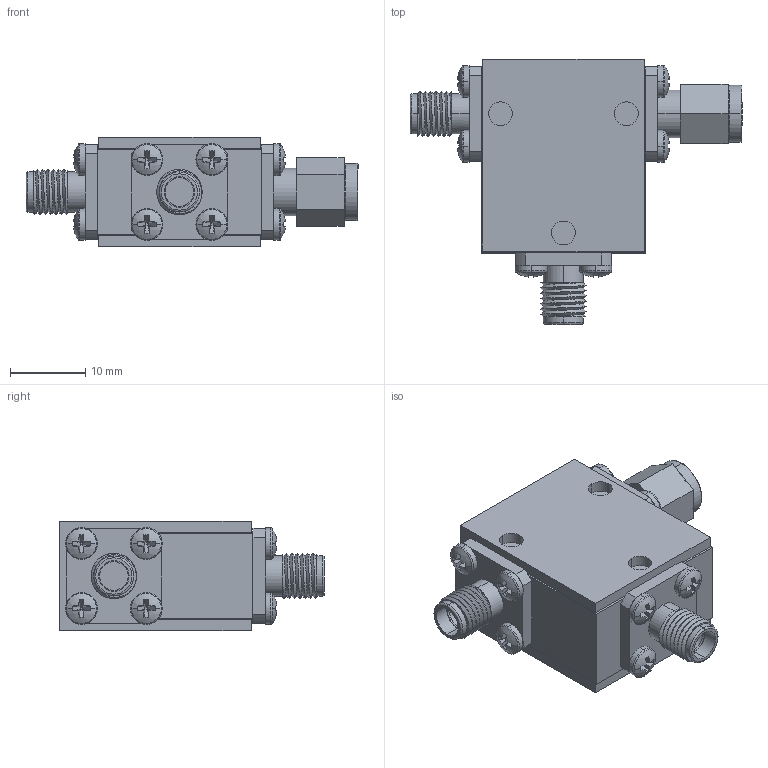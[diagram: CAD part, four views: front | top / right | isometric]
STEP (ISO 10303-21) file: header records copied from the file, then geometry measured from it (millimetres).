
FILE_DESCRIPTION (( 'STEP AP214' ), '1' );
FILE_NAME ('Package 4-2 Circ FMF - Cryo Shielded.STEP', '2023-12-20T00:15:17', ( '' ), ( '' ), 'SwSTEP 2.0', 'SolidWorks 2016', '' );
FILE_SCHEMA (( 'AUTOMOTIVE_DESIGN' ));
Length unit declared in the file: inch
Products named in the file (6): Delta SMA-Male; WR054; pan cross head_ai_CR-PHMS 0.086-56x0.125x0.125-N; Delta SMA-Female 0.500 flange Threaded; Package Size 4; Package 4-2 Circ FMF - Cryo Shielded
Assembly tree (17 placements, depth 2):
  Package 4-2 Circ FMF - Cryo Shielded
    Package Size 4
    Delta SMA-Female 0.500 flange Threaded  x2
    pan cross head_ai_CR-PHMS 0.086-56x0.125x0.125-N  x12
    WR054
    Delta SMA-Male
Bounding box: 44.25 x 35.31 x 14.58 mm (x, y, z)
Volume: 9438.4 mm3; surface area: 8148.8 mm2
Topology: 17 solids, 17 shells, 437 faces, 1000 edges, 618 vertices
Faces by surface type: plane 241, cylinder 132, torus 34, sphere 24, bspline 6
Entity records: 5473 total; most frequent: CARTESIAN_POINT 1486, DIRECTION 849, ORIENTED_EDGE 710, EDGE_CURVE 355, AXIS2_PLACEMENT_3D 340, VERTEX_POINT 227, EDGE_LOOP 192, CIRCLE 178
